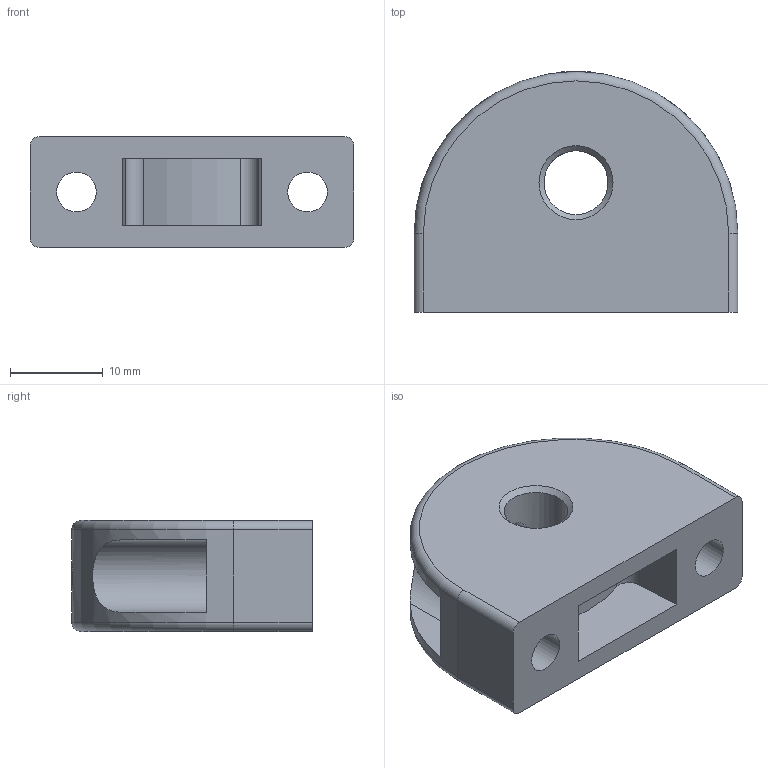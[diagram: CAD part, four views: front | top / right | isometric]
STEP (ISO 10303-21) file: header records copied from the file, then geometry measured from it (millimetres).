
FILE_DESCRIPTION( ( 'STEP AP203' ), '1' );
FILE_NAME( 'C:/Temp/Ganter_Step_05_03_2020/data/3_1/gn412_1/Mounting block GN 412.1-35-M8x1-1.stp', '2020-03-12T08:30:50', ( 'License CC BY-ND 4.0' ), ( 'CADENAS' ), ' ', 'PARTsolutions', ' ' );
FILE_SCHEMA( ( 'CONFIG_CONTROL_DESIGN' ) );
Length unit declared in the file: millimetre
Products named in the file (1): _Mounting block GN 412.1-35-M8x1-1
Bounding box: 35 x 26 x 12 mm (x, y, z)
Volume: 6453 mm3; surface area: 3954.2 mm2
Topology: 1 solids, 1 shells, 51 faces, 114 edges, 72 vertices
Faces by surface type: plane 27, cylinder 17, cone 5, torus 2
Full cylindrical faces by diameter (mm): 2.5 x1, 4 x2, 4.3 x2, 6.917 x1, 7.8 x2, 8.2 x1
Entity records: 1576 total; most frequent: CARTESIAN_POINT 408, DIRECTION 242, ORIENTED_EDGE 200, EDGE_CURVE 100, AXIS2_PLACEMENT_3D 94, EDGE_LOOP 78, VERTEX_POINT 72, FACE_OUTER_BOUND 60
